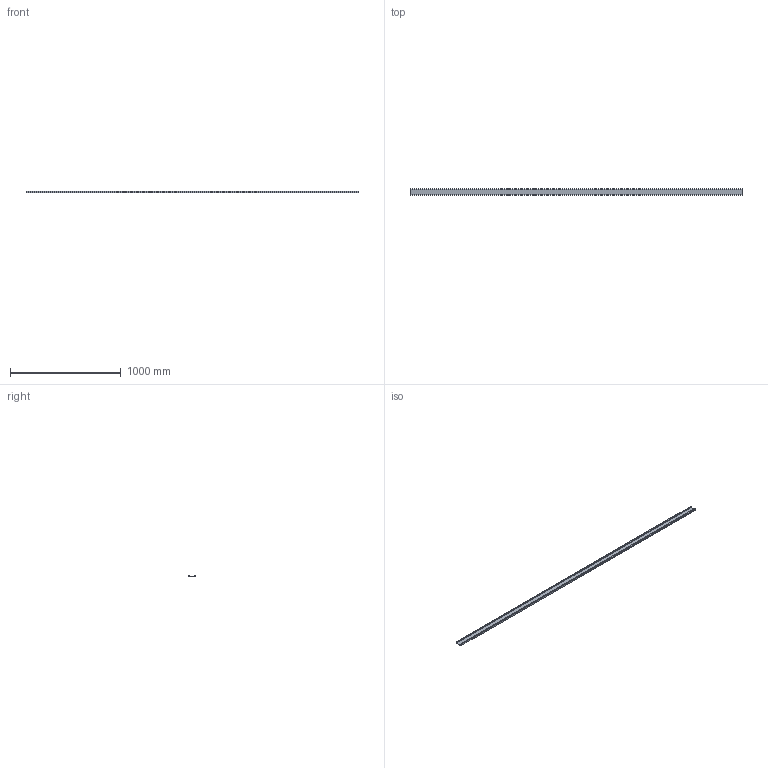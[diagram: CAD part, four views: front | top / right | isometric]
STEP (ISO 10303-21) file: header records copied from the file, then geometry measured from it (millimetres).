
FILE_DESCRIPTION (( 'STEP AP214' ), '1' );
FILE_NAME ('FABER - FD7 4.step', '2017-04-06T07:45:49', ( '' ), ( '' ), 'SwSTEP 2.0', 'SolidWorks 2016', '' );
FILE_SCHEMA (( 'AUTOMOTIVE_DESIGN' ));
Length unit declared in the file: millimetre
Products named in the file (1): FABER - FD7 4
Bounding box: 3000 x 60 x 14 mm (x, y, z)
Volume: 1105500 mm3; surface area: 570737 mm2
Topology: 1 solids, 1 shells, 14 faces, 36 edges, 24 vertices
Faces by surface type: plane 14
Entity records: 454 total; most frequent: CARTESIAN_POINT 75, ORIENTED_EDGE 72, DIRECTION 66, LINE 36, VECTOR 36, EDGE_CURVE 36, VERTEX_POINT 24, AXIS2_PLACEMENT_3D 15
